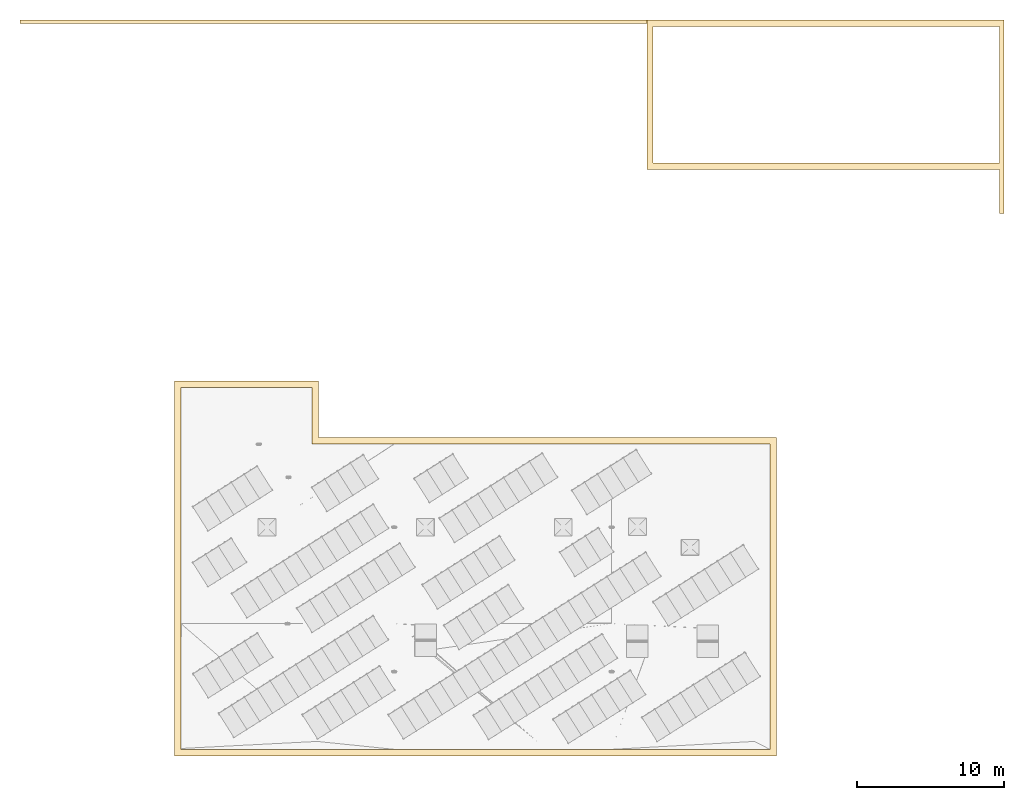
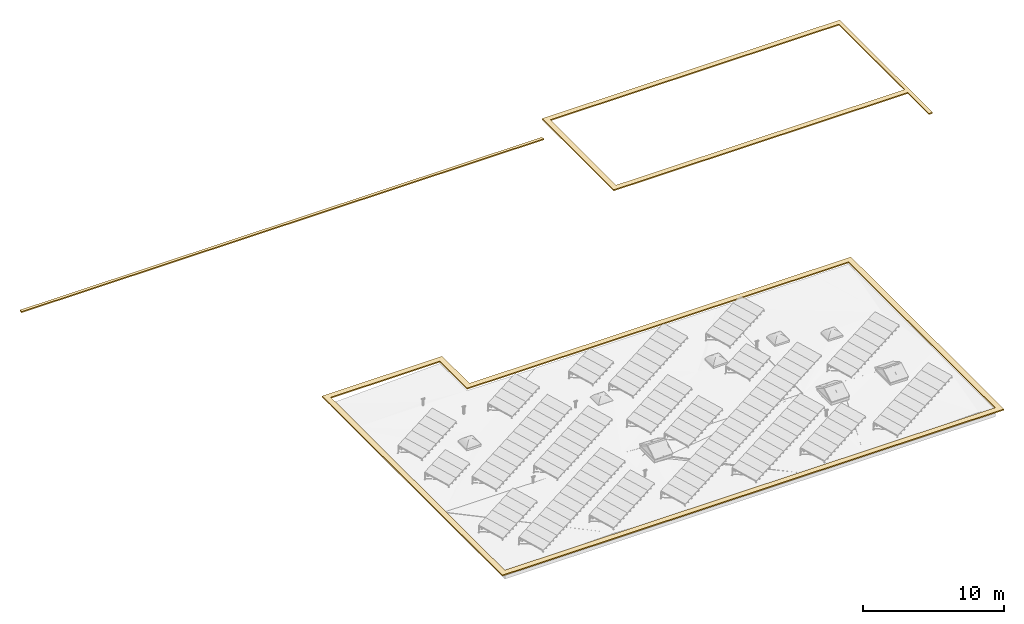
# One storey, part 8 of 9: 3 coverings, 2 openings.
"""IFC2X3 building model written with IfcOpenShell, lengths in millimetres."""

from ifc_helpers import new_model, entity, si_unit, converted_unit, derived_unit, money_unit, direction, frame, origin_with_axes, place, context, subcontext, project, spatial, polyline, outline, extrude, material, type_object, element, save


model = new_model("IFC2X3")

# Units and contexts
model_context = context("Model", 3, precision=0.01, world=origin_with_axes(), true_north=direction((0.0, 1.0)))
body_context = subcontext(model_context, "Body", "Model", "MODEL_VIEW")
ifc_project = project(units=[si_unit("LENGTHUNIT", "METRE", prefix="MILLI"), si_unit("AREAUNIT", "SQUARE_METRE"), si_unit("VOLUMEUNIT", "CUBIC_METRE"), converted_unit("PLANEANGLEUNIT", "DEGREE", entity("IfcPlaneAngleMeasure", 0.0174532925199), si_unit("PLANEANGLEUNIT", "RADIAN"), dimensions=[0, 0, 0, 0, 0, 0, 0]), si_unit("SOLIDANGLEUNIT", "STERADIAN"), money_unit("EUR"), converted_unit("TIMEUNIT", "Year", entity("IfcTimeMeasure", 31556926.0), si_unit("TIMEUNIT", "SECOND"), dimensions=[0, 0, 1, 0, 0, 0, 0]), si_unit("MASSUNIT", "GRAM", prefix="KILO"), si_unit("THERMODYNAMICTEMPERATUREUNIT", "DEGREE_CELSIUS"), si_unit("LUMINOUSINTENSITYUNIT", "LUMEN"), si_unit("ENERGYUNIT", "JOULE", prefix="MEGA"), derived_unit("THERMALCONDUCTANCEUNIT", [(si_unit("POWERUNIT", "WATT"), 1), (si_unit("LENGTHUNIT", "METRE"), -1), (si_unit("THERMODYNAMICTEMPERATUREUNIT", "KELVIN"), -1)]), derived_unit("SPECIFICHEATCAPACITYUNIT", [(si_unit("ENERGYUNIT", "JOULE"), 1), (si_unit("MASSUNIT", "GRAM", prefix="KILO"), -1), (si_unit("THERMODYNAMICTEMPERATUREUNIT", "KELVIN"), -1)]), derived_unit("MASSDENSITYUNIT", [(si_unit("MASSUNIT", "GRAM", prefix="KILO"), 1), (si_unit("VOLUMEUNIT", "CUBIC_METRE"), -1)])], contexts=[model_context])

# Site, building, storey
site_placement = place(None, origin_with_axes())
site = spatial("IfcSite", under=ifc_project, at=site_placement, Name="KIRDE 14, ELVA", CompositionType="ELEMENT")
building_placement = place(site_placement, origin_with_axes())
building = spatial("IfcBuilding", under=site, at=building_placement, Name="PPA ja Päästeameti ühishoone", CompositionType="ELEMENT")
storey_placement = place(building_placement, frame((0.0, 0.0, 7700.0), z_axis=(0.0, 0.0, 1.0), x_axis=(1.0, 0.0, 0.0)))
storey = spatial("IfcBuildingStorey", under=building, at=storey_placement, Name="Katusekorrus", CompositionType="ELEMENT", Elevation=7700.0)

# Covering, opening
ifc_material = material(Name="Titanium Zinc")
covering_type = type_object("IfcCoveringType", Name="Titanium Zinc 100", PredefinedType="CLADDING")
covering_1_placement = place(storey_placement, frame((-452.34809489, -451.000000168, 185.0), z_axis=(0.0, 0.0, 1.0), x_axis=(1.0, 0.0, 0.0)))
covering_1 = element("IfcCovering", 1, at=covering_1_placement, inside=storey, type_object=covering_type, material=ifc_material, Name="PARAPETIPLEKK", PredefinedType="CLADDING", context=body_context, shape_type="SweptSolid", body=[
    extrude(outline(polyline([(0.0, 0.0), (40947.0529854, 1.8801074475e-05), (40947.0529771, 21650.5916416), (9802.34814873, 21650.5916295), (9802.3481467, 25500.8167354), (2.34810492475, 25500.8167313), (0.0, 0.0)])), frame((0.0, 0.0, -100.0), z_axis=(0.0, 0.0, 1.0), x_axis=(1.0, 0.0, 0.0)), (0.0, 0.0, 1.0), 100.0),
])
opening_1_placement = place(covering_1_placement, frame((450.11742645, 450.000000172, 0.0), z_axis=(0.0, 0.0, 1.0), x_axis=(1.0, 3.8531099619e-10, 0.0)))
element("IfcOpeningElement", 2, at=opening_1_placement, cuts=covering_1, Name="Slab Opening", context=body_context, shape_type="SweptSolid", body=[
    extrude(outline(polyline([(0.0, 0.0), (40046.9355588, 3.19592685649e-06), (40046.9355589, 20750.5916259), (8902.23072989, 20750.5916258), (8902.23072998, 24600.8167316), (2.23068816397, 24600.8167313), (0.0, 0.0)])), frame((0.0, 0.0, -100.0), z_axis=(0.0, 0.0, 1.0), x_axis=(1.0, 0.0, 0.0)), (0.0, 0.0, 1.0), 100.0),
])

# Covering
covering_2_placement = place(storey_placement, frame((31677.621772, 49593.547873, -3600.0), z_axis=(0.0, 0.0, 1.0), x_axis=(1.0, 0.0, 0.0)))
element("IfcCovering", 3, at=covering_2_placement, inside=storey, type_object=covering_type, material=ifc_material, Name="PARAPETIPLEKK", PredefinedType="CLADDING", context=body_context, shape_type="SweptSolid", body=[
    extrude(outline(polyline([(0.0, 0.0), (-42620.0235229, 0.0), (-42620.0235229, -244.999973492), (0.0, -244.999973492), (0.0, 0.0)])), frame((0.0, 0.0, -100.0), z_axis=(0.0, 0.0, 1.0), x_axis=(1.0, 0.0, 0.0)), (0.0, 0.0, 1.0), 100.0),
])

# Covering, opening
covering_3_placement = place(storey_placement, frame((55969.2615457, 49593.547873, -2000.0), z_axis=(0.0, 0.0, 1.0), x_axis=(1.0, 0.0, 0.0)))
covering_3 = element("IfcCovering", 4, at=covering_3_placement, inside=storey, type_object=covering_type, material=ifc_material, Name="PARAPETIPLEKK", PredefinedType="CLADDING", context=body_context, shape_type="SweptSolid", body=[
    extrude(outline(polyline([(0.0, 0.0), (-24291.6397736, 0.0), (-24291.6397736, -10149.9998685), (-300.0, -10149.9998593), (-300.0, -13149.9999735), (0.0, -13149.9999735), (0.0, 0.0)])), frame((0.0, 0.0, -100.0), z_axis=(0.0, 0.0, 1.0), x_axis=(1.0, 0.0, 0.0)), (0.0, 0.0, 1.0), 100.0),
])
opening_2_placement = place(covering_3_placement, frame((-23865.5248454, -9723.55516025, 0.0), z_axis=(0.0, 0.0, 1.0), x_axis=(1.0, 0.0, 0.0)))
element("IfcOpeningElement", 5, at=opening_2_placement, cuts=covering_3, Name="Slab Opening", context=body_context, shape_type="SweptSolid", body=[
    extrude(outline(polyline([(0.0, 0.0), (23565.5248454, 0.0), (23565.5248415, 9297.55516283), (0.0, 9297.55516283), (0.0, 0.0)])), frame((0.0, 0.0, -100.0), z_axis=(0.0, 0.0, 1.0), x_axis=(1.0, 0.0, 0.0)), (0.0, 0.0, 1.0), 100.0),
])

save(model, "model.ifc")
